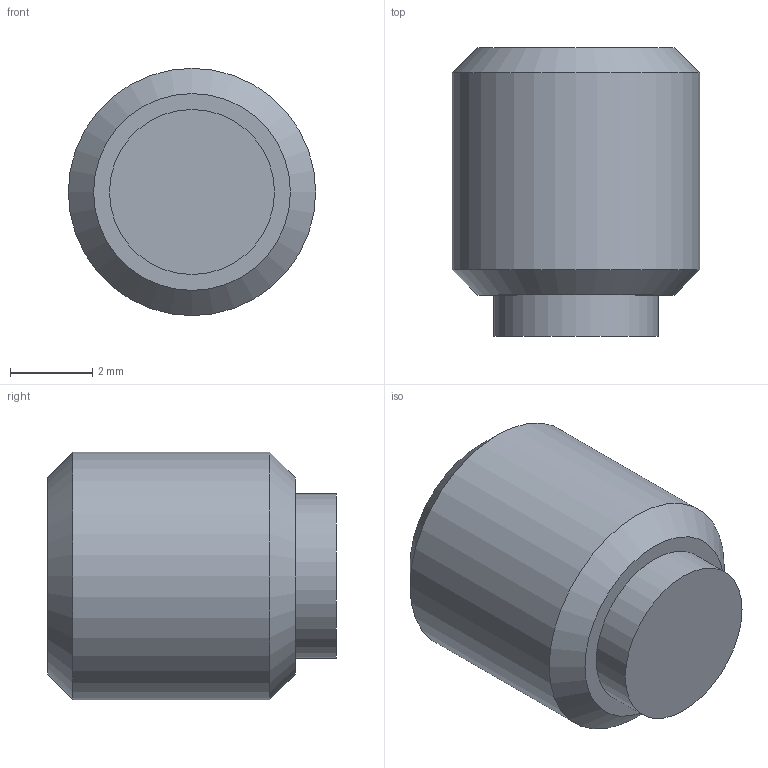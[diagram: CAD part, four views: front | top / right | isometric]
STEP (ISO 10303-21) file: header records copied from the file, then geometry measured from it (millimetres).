
FILE_DESCRIPTION( ( 'STEP AP203' ), '1' );
FILE_NAME( 'C:/Temp/Ganter_Step_05_03_2020/data/3_2/gn913_3/Grub screw GN 913.3-M6-6-MS.stp', '2020-03-13T05:35:47', ( 'License CC BY-ND 4.0' ), ( 'CADENAS' ), ' ', 'PARTsolutions', ' ' );
FILE_SCHEMA( ( 'CONFIG_CONTROL_DESIGN' ) );
Length unit declared in the file: millimetre
Products named in the file (1): _Grub screw GN 913.3-M6-6-MS
Bounding box: 6 x 7 x 6 mm (x, y, z)
Volume: 148.3 mm3; surface area: 204.1 mm2
Topology: 1 solids, 1 shells, 14 faces, 28 edges, 18 vertices
Faces by surface type: plane 10, cylinder 2, cone 2
Full cylindrical faces by diameter (mm): 4 x1, 6 x1
Entity records: 386 total; most frequent: DIRECTION 60, CARTESIAN_POINT 57, ORIENTED_EDGE 48, EDGE_CURVE 24, AXIS2_PLACEMENT_3D 21, EDGE_LOOP 20, VERTEX_POINT 18, LINE 18
